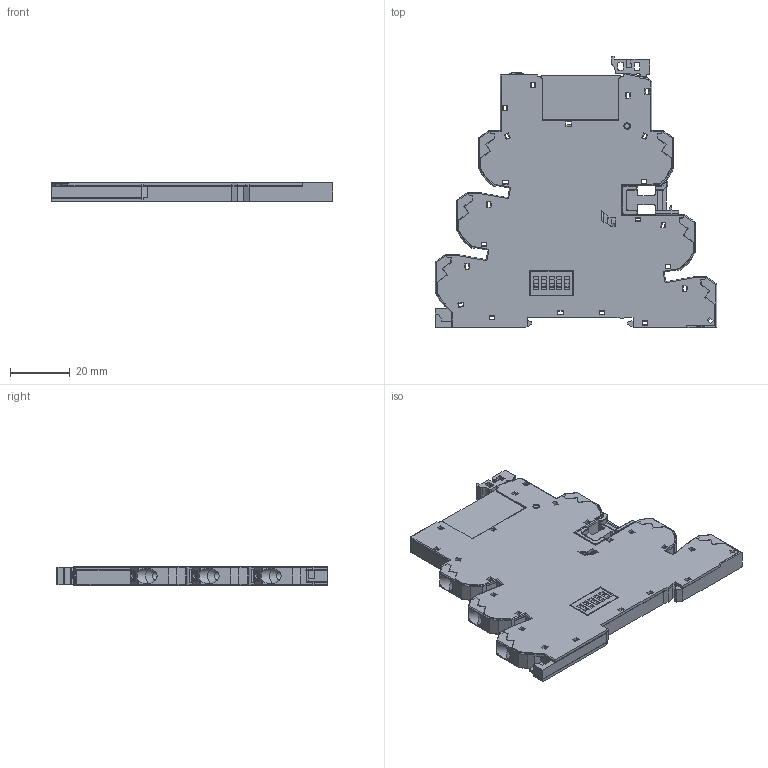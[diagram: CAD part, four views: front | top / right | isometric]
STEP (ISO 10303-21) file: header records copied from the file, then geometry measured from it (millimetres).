
FILE_DESCRIPTION( ( 'Unknown' ), '1' );
FILE_NAME( 'C:/Users/pdellaca/Desktop/Mezzacappa 93.6x push-in/39xx + 936x push-in STP/3991.stp', 'Unknown', ( 'Unknown' ), ( 'Unknown' ), 'PSStep 15.0.49', 'Unknown', ' ' );
FILE_SCHEMA( ( 'AUTOMOTIVE_DESIGN { 1 0 10303 214 1 1 1 1 }' ) );
Length unit declared in the file: millimetre
Products named in the file (6): top; EF00901+
Bounding box: 94.25 x 90.7 x 6.15 mm (x, y, z)
Surface area: 27375 mm2 (no closed solid volume)
Topology: 0 solids, 1217 shells, 1217 faces, 8231 edges, 8200 vertices
Faces by surface type: plane 877, cylinder 290, sphere 16, cone 14, torus 12, bspline 6, revolution 2
Full cylindrical faces by diameter (mm): 2 x2, 2.8 x6
Entity records: 87071 total; most frequent: CARTESIAN_POINT 18316, DIRECTION 11757, ORIENTED_EDGE 8185, EDGE_CURVE 8185, VERTEX_POINT 8185, LINE 6779, VECTOR 6779, AXIS2_PLACEMENT_3D 2488
